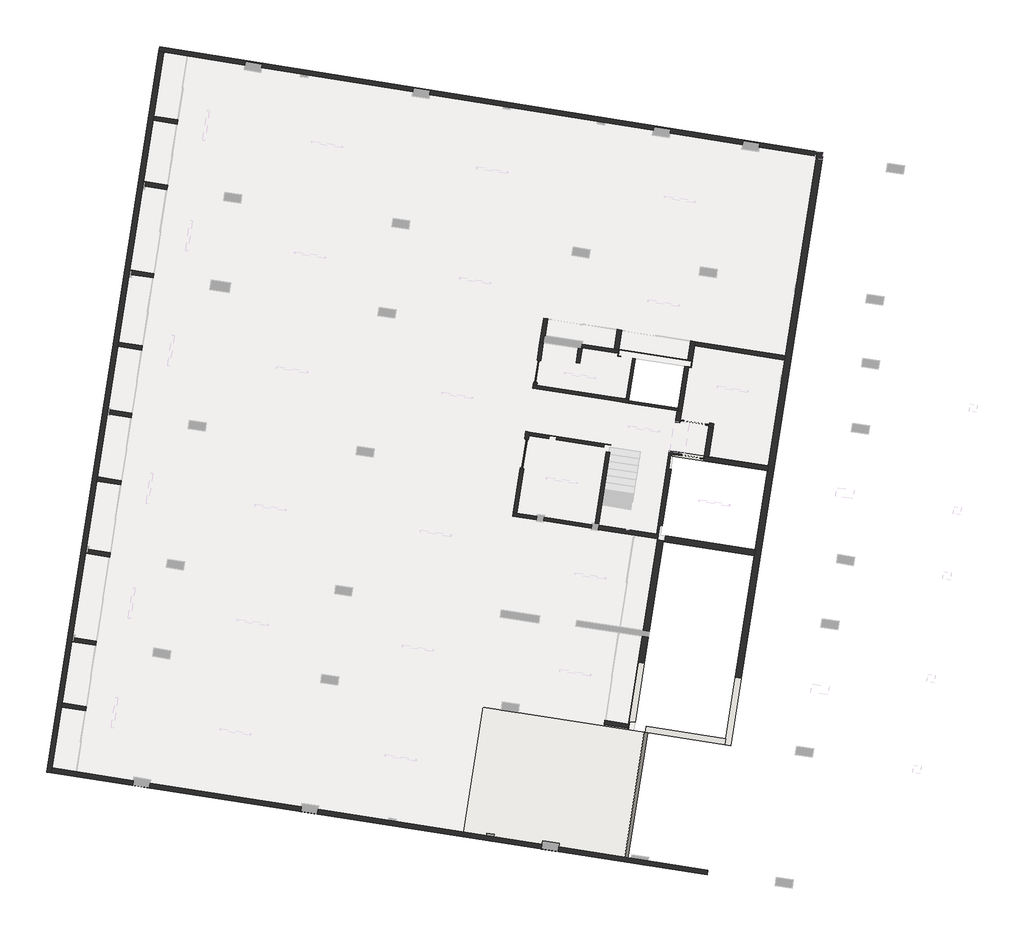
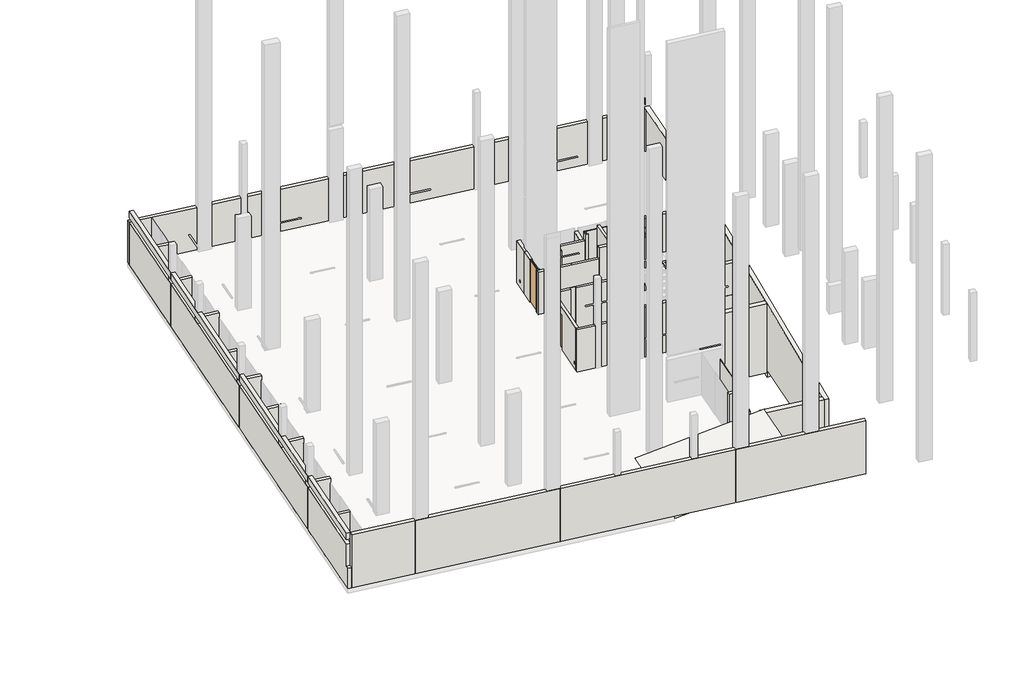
# One storey, part 1 of 5: 43 walls, 4 doors, 1 slab.
"""IFC4 building model written with IfcOpenShell, lengths in millimetres."""

from ifc_helpers import new_model, si_unit, frame, origin, place, context, project, spatial, polyline, outline, extrude, faceted_brep, transform, mapped, element, save
from components import ph1_bbbda500, ph2_7709b1c7, ph3_8ca4f0ef

model = new_model("IFC4")

# Units and contexts
model_context = context("Model", 3, world=origin())
ifc_project = project(units=[si_unit("LENGTHUNIT", "METRE", prefix="MILLI")], contexts=[model_context])

# Site, building, storey
site = spatial("IfcSite", under=ifc_project)
building = spatial("IfcBuilding", under=site)
storey = spatial("IfcBuildingStorey", under=building, Name="SÓTANO 2", Elevation=-5800.0)

# Doors
placement = place(None, origin())
ph1_shape = ph1_bbbda500(model_context)
element("IfcDoor", 1, ObjectType="Puerta Metalica-lisa : PH1", at=placement, inside=storey, context=model_context, shape_type="MappedRepresentation", body=[
    mapped(ph1_shape, transform((-35938.929982, -62909.9146704, -5800.0), x_axis=(0.15400987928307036, 0.9880693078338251, 0.0), y_axis=(-0.9880693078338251, 0.15400987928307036, 0.0), z_axis=(0.0, 0.0, 1.0))),
])
ph2_shape = ph2_7709b1c7(model_context)
element("IfcDoor", 2, ObjectType="Puerta Metalica-lisa : PH2", at=placement, inside=storey, context=model_context, shape_type="MappedRepresentation", body=[
    mapped(ph2_shape, transform((-36461.752021, -66264.1437351, -5800.0), x_axis=(0.15400987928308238, 0.9880693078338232, 0.0), y_axis=(-0.9880693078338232, 0.15400987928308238, 0.0), z_axis=(0.0, 0.0, 1.0))),
])
element("IfcDoor", 3, ObjectType="Puerta Metalica-lisa : PH2", at=placement, inside=storey, context=model_context, shape_type="MappedRepresentation", body=[
    mapped(ph2_shape, transform((-29509.0864413, -64999.8388898, -5800.0), x_axis=(-0.9880693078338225, 0.15400987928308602, 0.0), y_axis=(-0.15400987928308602, -0.9880693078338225, 0.0), z_axis=(0.0, 0.0, 1.0))),
])
ph3_shape = ph3_8ca4f0ef(model_context)
element("IfcDoor", 4, ObjectType="Puerta Metalica-lisa : PH3", at=placement, inside=storey, context=model_context, shape_type="MappedRepresentation", body=[
    mapped(ph3_shape, transform((-29652.4552231, -66374.1552262, -5800.0), x_axis=(-0.988069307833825, 0.15400987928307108, 0.0), y_axis=(-0.15400987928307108, -0.988069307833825, 0.0), z_axis=(0.0, 0.0, 1.0))),
])

# Slab
element("IfcSlab", 5, ObjectType="Suelo-losa 25cms estrias rampa", at=placement, inside=storey, context=model_context, shape_type="Brep", body=[
    faceted_brep([(-38150.5836204, -76612.0686454, -6064.1784246), (-31431.7122955, -77659.3358295, -4840.1784188), (-32232.5636685, -82797.2962349, -4840.1784188), (-38951.4349922, -81750.0290433, -6064.1784246), (-38150.5836204, -76612.0686454, -5800.0), (-38951.4349922, -81750.0290433, -5800.0), (-32232.5636685, -82797.2962349, -4575.9999943), (-31431.7122955, -77659.3358295, -4575.9999943)], [[[0, 1, 2, 3]], [[4, 5, 6, 7]], [[1, 0, 4, 7]], [[2, 1, 7, 6]], [[3, 2, 6, 5]], [[0, 3, 5, 4]]]),
])

# Walls
element("IfcWall", 6, ObjectType="Muro Contención - 25", at=placement, inside=storey, context=model_context, shape_type="Brep", body=[
    faceted_brep([(-31941.0705218, -77226.1247005, -4807.0363821), (-31941.0705218, -77226.1247005, -7900.0), (-30786.7043254, -69820.1464995, -7900.0), (-30786.7043254, -69820.1464995, -4171.3396338), (-30792.1929647, -69855.3595396, -4174.362167), (-31361.9312359, -73510.5854374, -4488.1107569), (-31361.9312359, -73510.5854374, -5800.0), (-31400.4337057, -73757.6027643, -5800.0), (-31400.4337057, -73757.6027643, -4509.3136429), (-31000.7078218, -69569.8397428, -7900.0), (-32238.9472528, -77513.9169874, -7900.0), (-32238.9472528, -77513.9169874, -3880.0), (-32232.6885595, -77473.7635714, -3880.0), (-32204.9667812, -77295.911096, -3880.0), (-31647.451033, -73719.1002962, -3880.0), (-31647.451033, -73719.1002962, -5800.0), (-31608.9485631, -73472.0829693, -5800.0), (-31608.9485631, -73472.0829693, -3880.0), (-31026.119453, -69732.8711858, -3880.0), (-30998.3976748, -69555.0187104, -3880.0), (-30998.3976748, -69555.0187104, -4159.0419593), (-31000.7078218, -69569.8397428, -4159.0419593), (-31000.7078218, -69569.8397428, -5800.0), (-30990.8271037, -69571.3798455, -7900.0), (-31023.8409342, -69783.1841324, -7900.0), (-32168.3264678, -77190.7024275, -7900.0), (-32219.1858718, -77516.9971842, -7900.0), (-32168.3264678, -77190.7024275, -4807.0363821), (-32234.0069062, -77514.6870368, -4835.0440956), (-32219.1858718, -77516.9971842, -4835.0440956), (-31642.5106864, -73719.8703456, -4509.3136431), (-30993.4573282, -69555.7887598, -4151.8871085), (-31007.2199227, -69644.0843759, -4159.4660176), (-31604.0082166, -73472.8530186, -4488.1107571), (-31023.8409342, -69783.1841324, -4171.3396338), (-30988.5169566, -69556.5588131, -4151.8871085), (-30993.4573282, -69555.7887598, -3880.0), (-31604.0082166, -73472.8530186, -3880.0), (-32234.0069062, -77514.6870368, -3880.0), (-31642.5106864, -73719.8703456, -3880.0), (-31604.0082166, -73472.8530186, -4227.1773428), (-31642.5106864, -73719.8703456, -4248.3802288), (-30990.8271037, -69571.3798455, -4159.0419593), (-30990.8271037, -69571.3798455, -5800.0), (-30988.5169566, -69556.5588131, -4153.159281), (-30988.5169566, -69556.5588131, -4159.0419593)], [[[0, 1, 2, 3, 4, 5, 6, 7, 8]], [[9, 10, 11, 12, 13, 14, 15, 16, 17, 18, 19, 20, 21, 22]], [[10, 9, 23, 24, 2, 1, 25, 26]], [[1, 0, 27, 25]], [[28, 29, 27, 0, 8, 30]], [[31, 32, 33, 5, 4, 3, 34, 35]], [[36, 19, 18, 17, 37]], [[11, 38, 39, 14, 13, 12]], [[31, 36, 37, 40, 33, 32]], [[38, 28, 30, 41, 39]], [[9, 22, 21, 42, 43, 23]], [[19, 36, 31, 35, 44, 45, 20]], [[7, 6, 16, 15]], [[8, 7, 15, 14, 39, 41, 30]], [[6, 5, 33, 40, 37, 17, 16]], [[34, 24, 23, 43, 42, 45, 44, 35]], [[24, 34, 3, 2]], [[21, 20, 45, 42]], [[25, 27, 29, 26]], [[11, 10, 26, 29, 28, 38]]]),
])
element("IfcWall", 7, ObjectType="Muro block 16cms_ext ductos", at=placement, inside=storey, context=model_context, shape_type="Brep", body=[
    faceted_brep([(-29918.9030443, -62694.3193065, -5800.0), (-30186.1820742, -64409.0807708, -5800.0), (-30202.3069086, -64512.5316273, -5800.0), (-30202.3069086, -64512.5316273, -3000.0), (-30194.2444914, -64460.806199, -3000.0), (-29918.9030443, -62694.3193065, -3000.0), (-30044.2158194, -64537.173208, -5800.0), (-29763.8921521, -62738.7222697, -5800.0), (-29760.811955, -62718.9608872, -5800.0), (-29760.811955, -62718.9608872, -3000.0), (-29763.8921521, -62738.7222697, -3000.0), (-30044.2158194, -64537.173208, -3000.0)], [[[0, 1, 2, 3, 4, 5]], [[6, 7, 8, 9, 10, 11]], [[2, 1, 0, 8, 7, 6]], [[5, 4, 3, 11, 10, 9]], [[0, 5, 9, 8]], [[11, 3, 2, 6]]]),
])
element("IfcWall", 8, ObjectType="Muro block 16cms_ext ductos", at=placement, inside=storey, context=model_context, shape_type="Brep", body=[
    faceted_brep([(-32939.2589043, -64085.9242594, -5800.0), (-32217.9683283, -64198.3514683, -5800.0), (-32217.9683283, -64198.3514683, -3000.0), (-32326.6559522, -64181.4103816, -3000.0), (-32326.6559522, -64181.4103816, -2600.0), (-32939.2589043, -64085.9242594, -2600.0), (-32939.2589043, -64085.9242594, -3260.0), (-32914.6173236, -63927.8331701, -5800.0), (-32914.6173236, -63927.8331701, -2600.0), (-32302.0143715, -64023.3192924, -2600.0), (-32302.0143715, -64023.3192924, -3000.0), (-32247.6705596, -64031.7898357, -3000.0), (-32193.3267476, -64040.2603791, -3000.0), (-32193.3267476, -64040.2603791, -5800.0), (-32302.0143715, -64023.3192924, -5800.0), (-32916.1574224, -63937.7138632, -5800.0), (-32201.843494, -64094.9006121, -5800.0), (-32201.843494, -64094.9006121, -3000.0)], [[[0, 1, 2, 3, 4, 5, 6]], [[7, 8, 9, 10, 11, 12, 13, 14]], [[1, 0, 15, 7, 14, 13, 16]], [[5, 4, 9, 8]], [[0, 6, 5, 8, 7, 15]], [[10, 3, 2, 17, 12, 11]], [[2, 1, 16, 13, 12, 17]], [[4, 3, 10, 9]]]),
])
element("IfcWall", 9, ObjectType="Muro block 11cms_int_ductos doble", at=placement, inside=storey, context=model_context, shape_type="Brep", body=[
    faceted_brep([(-32193.3267476, -64040.2603791, -5800.0), (-31934.5644636, -62380.1391446, -5800.0), (-31934.5644636, -62380.1391446, -2600.0), (-32201.843494, -64094.9006121, -2600.0), (-32201.843494, -64094.9006121, -3000.0), (-32193.3267476, -64040.2603791, -3000.0), (-32302.0143715, -64023.3192924, -5800.0), (-32302.0143715, -64023.3192924, -3000.0), (-32302.0143715, -64023.3192924, -2600.0), (-32043.2520874, -62363.1980579, -2600.0), (-32043.2520874, -62363.1980579, -5800.0), (-32247.6705596, -64031.7898357, -2600.0), (-32256.1873059, -64086.4300687, -2600.0), (-32256.1873059, -64086.4300687, -3000.0), (-32247.6705596, -64031.7898357, -3000.0)], [[[0, 1, 2, 3, 4, 5]], [[6, 7, 8, 9, 10]], [[1, 0, 6, 10]], [[2, 1, 10, 9]], [[3, 2, 9, 8, 11, 12]], [[4, 13, 14, 5]], [[0, 5, 14, 7, 6]], [[4, 3, 12, 13]], [[12, 11, 14, 13]], [[11, 8, 7, 14]]]),
])
element("IfcWall", 10, ObjectType="TABLAROCA - 1 CAPA 1/2\"", at=placement, inside=storey, context=model_context, shape_type="Brep", body=[
    faceted_brep([(-32217.9683284, -64198.3514686, -2600.0), (-32217.9683284, -64198.3514686, -3000.0), (-32217.9683284, -64198.3514686, -5800.0), (-30222.0682948, -64509.4514297, -5800.0), (-30202.3069086, -64512.5316273, -5800.0), (-30202.3069086, -64512.5316273, -3000.0), (-30222.0682948, -64509.4514297, -3000.0), (-30222.0682948, -64509.4514297, -2600.0), (-32201.843494, -64094.9006121, -5800.0), (-32201.843494, -64094.9006121, -2600.0), (-30186.1820742, -64409.0807708, -2600.0), (-30186.1820742, -64409.0807708, -3000.0), (-30186.1820742, -64409.0807708, -5800.0), (-30214.0058776, -64457.7260015, -2600.0), (-30194.2444914, -64460.806199, -2600.0), (-30194.2444914, -64460.806199, -3000.0), (-30214.0058776, -64457.7260015, -3000.0)], [[[0, 1, 2, 3, 4, 5, 6, 7]], [[8, 9, 10, 11, 12]], [[4, 3, 2, 8, 12]], [[0, 7, 13, 14, 10, 9]], [[15, 16, 6, 5]], [[5, 4, 12, 11, 15]], [[7, 6, 16, 13]], [[16, 15, 14, 13]], [[15, 11, 10, 14]], [[0, 9, 8, 2, 1]]]),
])
element("IfcWall", 11, ObjectType="Muro Contención - 20 cm", at=placement, inside=storey, context=model_context, shape_type="Brep", body=[
    faceted_brep([(-51178.3391861, -49875.6371951, -2600.0), (-55731.1303391, -79084.6283593, -2600.0), (-55731.1303391, -79084.6283593, -3000.0), (-55344.4672489, -76603.9437849, -3000.0), (-55316.7454706, -76426.0913095, -3000.0), (-54928.6405692, -73936.1566173, -3000.0), (-54900.9187909, -73758.3041419, -3000.0), (-54366.5045095, -70329.703642, -3000.0), (-54338.7827312, -70151.8511666, -3000.0), (-53907.1907955, -67382.9200616, -3000.0), (-53879.4690172, -67205.0675862, -3000.0), (-53478.679059, -64633.7503533, -3000.0), (-53450.9572807, -64455.8978779, -3000.0), (-53050.1673161, -61884.5806043, -3000.0), (-53022.4455378, -61706.7281289, -3000.0), (-52590.8536046, -58937.79704, -3000.0), (-52563.1318263, -58759.9445646, -3000.0), (-51178.3391861, -49875.6371951, -3000.0), (-55928.7442006, -79053.8263835, -2600.0), (-51375.8388988, -49844.1028827, -2600.0), (-51375.8388988, -49844.1028827, -3000.0), (-55928.7442006, -79053.8263835, -3000.0)], [[[0, 1, 2, 3, 4, 5, 6, 7, 8, 9, 10, 11, 12, 13, 14, 15, 16, 17]], [[18, 19, 20, 21]], [[1, 0, 19, 18]], [[19, 0, 17, 20]], [[17, 16, 15, 14, 13, 12, 11, 10, 9, 8, 7, 6, 5, 4, 3, 2, 21, 20]], [[1, 18, 21, 2]]]),
    faceted_brep([(-55761.9323149, -79282.2422209, -5800.0), (-55731.1303391, -79084.6283593, -5800.0), (-55344.467249, -76603.9437854, -5800.0), (-55316.7454707, -76426.09131, -5800.0), (-54928.6405692, -73936.1566173, -5800.0), (-54926.4287711, -73921.9665548, -5800.0), (-54366.5045095, -70329.703642, -5800.0), (-54364.2927112, -70315.5135781, -5800.0), (-53907.1907955, -67382.9200616, -5800.0), (-53879.4690172, -67205.0675862, -5800.0), (-53050.1673161, -61884.5806043, -5800.0), (-53022.4455378, -61706.7281289, -5800.0), (-52565.5403627, -58775.3968255, -5800.0), (-52563.1318263, -58759.9445646, -5800.0), (-52003.4043028, -55168.9438488, -5800.0), (-52000.9957705, -55153.4916138, -5800.0), (-51612.8908725, -52663.5569442, -5800.0), (-51585.1690943, -52485.7044688, -5800.0), (-51178.3391861, -49875.6371951, -5800.0), (-51178.3391861, -49875.6371951, -3260.0), (-52000.9957705, -55153.4916138, -3260.0), (-52003.4043028, -55168.9438488, -3260.0), (-53022.4455378, -61706.7281289, -3260.0), (-53050.1673161, -61884.5806043, -3260.0), (-55316.7454707, -76426.09131, -3260.0), (-55344.467249, -76603.9437854, -3260.0), (-55731.1303391, -79084.6283593, -3260.0), (-55731.1303391, -79084.6283593, -4580.0), (-55761.9323149, -79282.2422209, -4580.0), (-51375.8388988, -49844.1028827, -5800.0), (-55959.5461765, -79251.4402451, -5800.0), (-55959.5461765, -79251.4402451, -4580.0), (-55928.7442006, -79053.8263835, -4580.0), (-55928.7442006, -79053.8263835, -3260.0), (-51375.8388988, -49844.1028827, -3260.0)], [[[0, 1, 2, 3, 4, 5, 6, 7, 8, 9, 10, 11, 12, 13, 14, 15, 16, 17, 18, 19, 20, 21, 22, 23, 24, 25, 26, 27, 28]], [[29, 30, 31, 32, 33, 34]], [[18, 17, 16, 15, 14, 13, 12, 11, 10, 9, 8, 7, 6, 5, 4, 3, 2, 1, 0, 30, 29]], [[18, 29, 34, 19]], [[32, 31, 28, 27]], [[0, 28, 31, 30]], [[26, 25, 24, 23, 22, 21, 20, 19, 34, 33]], [[32, 27, 26, 33]]]),
])
element("IfcWall", 12, ObjectType="Muro Contención - 20 cm", at=placement, inside=storey, context=model_context, shape_type="Brep", body=[
    faceted_brep([(-30509.9942441, -53175.7029943, -3260.0), (-30509.9942441, -53175.7029943, -5800.0), (-27562.3110326, -53646.3526075, -5800.0), (-27562.3110326, -53646.3526075, -3260.0), (-31201.2432383, -53065.3329007, -5800.0), (-31201.2432383, -53065.3329007, -3260.0), (-40325.7209681, -51608.4491021, -3260.0), (-40325.7209681, -51608.4491021, -5800.0), (-51375.8388988, -49844.1028827, -3260.0), (-51375.8388988, -49844.1028827, -5800.0), (-51178.3391861, -49875.6371951, -5800.0), (-47870.2123516, -50403.8379899, -5800.0), (-47870.2123516, -50403.8379899, -3260.0), (-51178.3391861, -49875.6371951, -3260.0), (-24535.6279576, -54129.6159423, -3260.0), (-26871.0620384, -53756.722701, -3260.0), (-26871.0620384, -53756.722701, -5800.0), (-24535.6279576, -54129.6159423, -5800.0), (-47178.9631418, -50514.2081179, -3260.0), (-47178.9631418, -50514.2081179, -5800.0), (-41016.9701779, -51498.0789741, -5800.0), (-41016.9701779, -51498.0789741, -3260.0), (-24504.8257702, -53932.0007237, -5800.0), (-51345.0367114, -49646.4876641, -5800.0), (-51345.0367114, -49646.4876641, -3260.0), (-24504.8257702, -53932.0007237, -3260.0), (-26846.4762948, -53598.9898415, -5800.0), (-27538.1248103, -53491.1829259, -5800.0), (-30487.5117328, -53031.4636799, -5800.0), (-31179.1602483, -52923.6567643, -5800.0), (-40297.7399681, -51428.8353259, -5800.0), (-40989.3974534, -51321.0859732, -5800.0), (-47155.0299023, -50360.5774566, -5800.0), (-47846.6873876, -50252.828104, -5800.0), (-30487.5117328, -53031.4636799, -3260.0), (-27538.1248103, -53491.1829259, -3260.0), (-26846.4762948, -53598.9898415, -3260.0), (-47846.6873876, -50252.828104, -3260.0), (-47155.0299023, -50360.5774566, -3260.0), (-40989.3974534, -51321.0859732, -3260.0), (-40297.7399681, -51428.8353259, -3260.0), (-31179.1602483, -52923.6567643, -3260.0)], [[[0, 1, 2, 3]], [[4, 5, 6, 7]], [[8, 9, 10, 11, 12, 13]], [[14, 15, 16, 17]], [[18, 19, 20, 21]], [[22, 23, 24, 25]], [[23, 22, 17, 16, 26, 27, 2, 1, 28, 29, 4, 7, 30, 31, 20, 19, 32, 33, 11, 10, 9]], [[23, 9, 8, 24]], [[34, 0, 3, 35, 36, 15, 14, 25, 24, 8, 13, 12, 37, 38, 18, 21, 39, 40, 6, 5, 41]], [[34, 28, 1, 0]], [[28, 34, 41, 29]], [[29, 41, 5, 4]], [[36, 26, 16, 15]], [[26, 36, 35, 27]], [[27, 35, 3, 2]], [[38, 32, 19, 18]], [[32, 38, 37, 33]], [[33, 37, 12, 11]], [[40, 30, 7, 6]], [[30, 40, 39, 31]], [[31, 39, 21, 20]], [[17, 22, 25, 14]]]),
    faceted_brep([(-24412.5565914, -54149.2664565, -2600.0), (-24585.36884, -54121.6739331, -2600.0), (-24585.36884, -54121.6739331, -3000.0), (-24412.5565914, -54149.2664565, -3000.0), (-24553.8347441, -53924.1755767, -2600.0), (-24381.0224955, -53951.7681, -2600.0), (-24381.0224955, -53951.7681, -3000.0), (-24504.8257702, -53932.0007237, -3000.0), (-24553.8347441, -53924.1755767, -3000.0)], [[[0, 1, 2, 3]], [[4, 5, 6, 7, 8]], [[0, 5, 4, 1]], [[2, 1, 4, 8]], [[5, 0, 3, 6]], [[6, 3, 2, 8, 7]]]),
])
element("IfcWall", 13, ObjectType="Muro Contención - 20 cm", at=placement, inside=storey, context=model_context, shape_type="Brep", body=[
    faceted_brep([(-28974.2134871, -83255.2158897, -2600.0), (-28974.2134871, -83255.2158897, -5800.0), (-35050.8397091, -82308.0551354, -5800.0), (-35050.8397091, -82308.0551354, -2600.0), (-55731.1303391, -79084.6283593, -5800.0), (-55731.1303391, -79084.6283593, -2600.0), (-52421.0981531, -79600.5614557, -2600.0), (-52421.0981531, -79600.5614557, -5800.0), (-51729.4496376, -79708.3683712, -5800.0), (-51729.4496376, -79708.3683712, -2600.0), (-45563.8971576, -80669.3900178, -2600.0), (-45563.8971576, -80669.3900178, -5800.0), (-35742.4882246, -82200.2482199, -2600.0), (-35742.4882246, -82200.2482199, -5800.0), (-44872.2486421, -80777.1969333, -5800.0), (-44872.2486421, -80777.1969333, -2600.0), (-55761.9323149, -79282.2422209, -5800.0), (-29005.015463, -83452.8297512, -5800.0), (-29005.015463, -83452.8297512, -2600.0), (-55761.9323149, -79282.2422209, -2600.0), (-55761.9323149, -79282.2422209, -3000.0), (-55761.9323149, -79282.2422209, -4580.0), (-52451.8022857, -79797.5475923, -5800.0), (-51760.1537702, -79905.3545078, -5800.0), (-45594.6630239, -80866.7722138, -5800.0), (-44903.0145084, -80974.5791293, -5800.0), (-35773.1919463, -82397.2317198, -5800.0), (-35081.5434308, -82505.0386353, -5800.0), (-35081.5434308, -82505.0386353, -2600.0), (-35773.1919463, -82397.2317198, -2600.0), (-44903.0145084, -80974.5791293, -2600.0), (-45594.6630239, -80866.7722138, -2600.0), (-51760.1537702, -79905.3545078, -2600.0), (-52451.8022857, -79797.5475923, -2600.0)], [[[0, 1, 2, 3]], [[4, 5, 6, 7]], [[8, 9, 10, 11]], [[12, 13, 14, 15]], [[16, 17, 18, 19, 20, 21]], [[17, 16, 4, 7, 22, 23, 8, 11, 24, 25, 14, 13, 26, 27, 2, 1]], [[19, 18, 0, 3, 28, 29, 12, 15, 30, 31, 10, 9, 32, 33, 6, 5]], [[1, 0, 18, 17]], [[4, 16, 21, 20, 19, 5]], [[9, 8, 23, 32]], [[32, 23, 22, 33]], [[7, 6, 33, 22]], [[3, 2, 27, 28]], [[28, 27, 26, 29]], [[13, 12, 29, 26]], [[25, 30, 15, 14]], [[30, 25, 24, 31]], [[31, 24, 11, 10]]]),
])
element("IfcWall", 14, ObjectType="Muro Contención - 25", at=placement, inside=storey, context=model_context, shape_type="Brep", body=[
    faceted_brep([(-26504.8745713, -66763.5596062, -8560.0), (-27077.0523841, -70434.4366831, -8560.0), (-27077.0523841, -70434.4366831, -8300.0), (-27077.0523841, -70434.4366831, -8160.0), (-28276.7893452, -78131.4966007, -8160.0), (-28276.7893452, -78131.4966007, -7900.0), (-28276.7893452, -78131.4966007, -4835.0440956), (-28238.2868754, -77884.4792738, -4813.8412096), (-27077.0523841, -70434.4366831, -4174.362167), (-27038.5499143, -70187.4193561, -4153.159281), (-26534.1364483, -66951.2927747, -3875.3843418), (-26506.4146701, -66773.4402993, -3860.1182638), (-25831.0971591, -62440.8578137, -3488.2283496), (-25803.3753809, -62263.0053383, -3472.9622717), (-25418.3506872, -59792.8320981, -3260.9334142), (-25418.3506872, -59792.8320981, -3260.0), (-24535.6279576, -54129.6159423, -3260.0), (-24504.8257702, -53932.0007237, -3260.0), (-24504.8257702, -53932.0007237, -5800.0), (-24504.8257702, -53932.0007237, -6060.0), (-26504.8745713, -66763.5596062, -6060.0), (-26504.8745713, -66763.5596062, -8300.0), (-26830.0350571, -70472.9391529, -8560.0), (-26257.8572443, -66802.062076, -8560.0), (-26257.8572443, -66802.062076, -6060.0), (-24257.9511294, -53971.4186143, -6060.0), (-24257.9511294, -53971.4186143, -3260.0), (-25171.3333603, -59831.334568, -3260.0), (-25171.3333603, -59831.334568, -3260.9334142), (-28029.7720182, -78169.9990706, -4835.0440956), (-28029.7720182, -78169.9990706, -8160.0), (-26830.0350571, -70472.9391529, -8160.0)], [[[0, 1, 2, 3, 4, 5, 6, 7, 8, 9, 10, 11, 12, 13, 14, 15, 16, 17, 18, 19, 20, 21]], [[22, 23, 24, 25, 26, 27, 28, 29, 30, 31]], [[25, 19, 18, 17, 26]], [[17, 16, 15, 27, 26]], [[14, 13, 12, 11, 10, 9, 8, 7, 6, 29, 28]], [[1, 0, 23, 22]], [[14, 28, 27, 15]], [[20, 19, 25, 24]], [[4, 3, 31, 30]], [[3, 2, 1, 22, 31]], [[0, 21, 20, 24, 23]], [[29, 6, 5, 4, 30]]]),
])
element("IfcWall", 15, ObjectType="Muro Contención - 25", at=placement, inside=storey, context=model_context, shape_type="SweptSolid", body=[
    extrude(outline(polyline([(11155.2020181, 1246.1587904), (11405.2020181, 1224.9559044), (11405.2020181, -1840.0), (11155.2020181, -1840.0), (11155.2020181, 1246.1587904)])), frame((-26520.2755592, -66862.366537, -6060.0), z_axis=(-0.9880693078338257, 0.1540098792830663, 0.0), x_axis=(-0.1540098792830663, -0.9880693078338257, 0.0)), (0.0, 0.0, 1.0), 3289.9999882),
])
element("IfcWall", 16, ObjectType="Muro Contención - 25", at=placement, inside=storey, context=model_context, shape_type="Brep", body=[
    faceted_brep([(-30792.1929647, -69855.3595396, -8300.0), (-27077.0523841, -70434.4366831, -8300.0), (-27077.0523841, -70434.4366831, -8160.0), (-27077.0523841, -70434.4366831, -4174.362167), (-30792.1929647, -69855.3595396, -4174.362167), (-27038.5499143, -70187.4193561, -4153.159281), (-27038.5499143, -70187.4193561, -8300.0), (-30694.4063114, -69617.5828093, -8300.0), (-30694.4063114, -69617.5828093, -4153.159281), (-30786.7043254, -69820.1464995, -8300.0), (-30727.4201419, -69829.3870962, -8300.0), (-30727.4201419, -69829.3870962, -4171.3396338), (-30786.7043254, -69820.1464995, -4171.3396338), (-30786.7043254, -69820.1464995, -7900.0)], [[[0, 1, 2, 3, 4]], [[5, 6, 7, 8]], [[1, 0, 9, 10, 7, 6]], [[4, 3, 5, 8, 11, 12]], [[0, 4, 12, 13, 9]], [[10, 11, 8, 7]], [[11, 10, 9, 13, 12]], [[1, 6, 5, 3, 2]]]),
])
element("IfcWall", 17, ObjectType="Muro block 13cms_ext_ductos", at=placement, inside=storey, context=model_context, shape_type="Brep", body=[
    faceted_brep([(-29738.9906924, -62449.1019696, -5800.0), (-29788.3941578, -62441.4014756, -5800.0), (-32485.8233633, -62020.954506, -5800.0), (-32485.8233633, -62020.954506, -3000.0), (-29738.9906924, -62449.1019696, -3000.0), (-29742.07089, -62468.8633556, -5800.0), (-32488.9035608, -62040.715892, -5800.0), (-32488.9035608, -62040.715892, -3000.0), (-29742.07089, -62468.8633556, -3000.0)], [[[0, 1, 2, 3, 4]], [[2, 1, 0, 5, 6]], [[4, 3, 7, 8]], [[3, 2, 6, 7]], [[0, 4, 8, 5]], [[6, 5, 8, 7]]]),
])
element("IfcWall", 18, ObjectType="Muro block 13cms_ext_ductos", at=placement, inside=storey, context=model_context, shape_type="Brep", body=[
    faceted_brep([(-32614.2723734, -62000.9332216, -5800.0), (-32617.3525738, -62020.6946263, -5800.0), (-32640.4540551, -62168.9050226, -5800.0), (-32658.9352374, -62287.4733218, -5800.0), (-32658.9352374, -62287.4733218, -3000.0), (-32614.2723734, -62000.9332216, -3000.0), (-32530.4862273, -62307.4946056, -3000.0), (-32530.4862273, -62307.4946056, -5800.0), (-32527.4060297, -62287.7332191, -5800.0), (-32527.4060297, -62287.7332191, -3000.0), (-32485.8233633, -62020.954506, -5800.0), (-32485.8233633, -62020.954506, -3000.0), (-32488.9035608, -62040.715892, -3000.0), (-32488.9035608, -62040.715892, -5800.0), (-32597.5911868, -62023.7748049, -5800.0), (-32636.0936566, -62270.7921319, -5800.0), (-32636.0936566, -62270.7921319, -3000.0), (-32597.5911868, -62023.7748049, -3000.0)], [[[0, 1, 2, 3, 4, 5]], [[6, 7, 8, 9]], [[10, 11, 12, 13]], [[3, 2, 1, 0, 10, 13, 14, 15, 8, 7]], [[4, 3, 7, 6]], [[5, 4, 6, 9, 16, 17, 12, 11]], [[0, 5, 11, 10]], [[17, 14, 13, 12]], [[14, 17, 16, 15]], [[15, 16, 9, 8]]]),
])
element("IfcWall", 19, ObjectType="Muro block 13cms_ext_ductos", at=placement, inside=storey, context=model_context, shape_type="Brep", body=[
    faceted_brep([(-29738.9906924, -62449.1019696, -3000.0), (-29738.9906924, -62449.1019696, -5800.0), (-29742.07089, -62468.8633556, -5800.0), (-29742.07089, -62468.8633556, -3000.0), (-29655.2045485, -62755.6633537, -5800.0), (-29610.5416824, -62469.1232539, -5800.0), (-29610.5416824, -62469.1232539, -3539.9633922), (-29610.5416824, -62469.1232539, -3000.0), (-29655.2045485, -62755.6633537, -3000.0), (-29763.8921521, -62738.7222697, -5800.0), (-29760.8119544, -62718.9608832, -5800.0), (-29671.8857331, -62732.8217697, -5800.0), (-29633.3832633, -62485.8044428, -5800.0), (-29763.8921521, -62738.7222697, -3000.0), (-29719.2293095, -62452.1821667, -3000.0), (-29633.3832633, -62485.8044428, -3000.0), (-29671.8857331, -62732.8217697, -3000.0), (-29760.8119544, -62718.9608832, -3000.0)], [[[0, 1, 2, 3]], [[4, 5, 6, 7, 8]], [[5, 4, 9, 10, 11, 12, 2, 1]], [[4, 8, 13, 9]], [[8, 7, 14, 0, 3, 15, 16, 17, 13]], [[1, 0, 14, 7, 6, 5]], [[3, 2, 12, 15]], [[12, 11, 16, 15]], [[16, 11, 10, 17]], [[10, 9, 13, 17]]]),
])
element("IfcWall", 20, ObjectType="Muro block 15cms_ext/ext (tabique pasta dos lados)", at=placement, inside=storey, context=model_context, shape_type="Brep", body=[
    faceted_brep([(-36934.7739188, -68811.8921066, -3260.0), (-36934.7739188, -68811.8921066, -5800.0), (-35971.4065402, -68962.0517084, -5800.0), (-35971.4065402, -68962.0517084, -3260.0), (-36911.6724369, -68663.6817104, -5800.0), (-36911.6724369, -68663.6817104, -3260.0), (-36763.4620407, -68686.7831923, -3260.0), (-35948.3050574, -68813.8413123, -3260.0), (-35948.3050574, -68813.8413123, -5800.0), (-36763.4620407, -68686.7831923, -5800.0)], [[[0, 1, 2, 3]], [[4, 5, 6, 7, 8, 9]], [[1, 4, 9, 8, 2]], [[5, 0, 3, 7, 6]], [[4, 1, 0, 5]], [[8, 7, 3, 2]]]),
    faceted_brep([(-35674.9857479, -69008.2546722, -3260.0), (-35674.9857479, -69008.2546722, -5800.0), (-33733.4293193, -69310.8841223, -5800.0), (-33733.4293193, -69310.8841223, -3260.0), (-35651.8842651, -68860.0442761, -5800.0), (-35651.8842651, -68860.0442761, -3260.0), (-33710.3278374, -69162.6737262, -3260.0), (-33710.3278374, -69162.6737262, -5800.0)], [[[0, 1, 2, 3]], [[4, 5, 6, 7]], [[1, 4, 7, 2]], [[5, 0, 3, 6]], [[5, 4, 1, 0]], [[3, 2, 7, 6]]]),
])
element("IfcWall", 21, ObjectType="Muro block 15cms_ext/ext (tabique pasta dos lados)", at=placement, inside=storey, context=model_context, shape_type="Brep", body=[
    faceted_brep([(-36295.2408953, -65682.8528913, -5800.0), (-36270.8732736, -65526.5194194, -5800.0), (-36247.7717917, -65378.3090232, -5800.0), (-36247.7717917, -65378.3090232, -3260.0), (-36270.8732736, -65526.5194194, -3260.0), (-36763.4620407, -68686.7831923, -3260.0), (-36763.4620407, -68686.7831923, -5800.0), (-36480.0527505, -66868.5360607, -5800.0), (-36480.0527505, -66868.5360607, -3700.0), (-36295.2408953, -65682.8528913, -3700.0), (-36395.9821879, -65355.2075413, -5800.0), (-36443.4512915, -65659.7514094, -5800.0), (-36443.4512915, -65659.7514094, -3700.0), (-36628.2631467, -66845.4345788, -3700.0), (-36628.2631467, -66845.4345788, -5800.0), (-36911.6724369, -68663.6817104, -5800.0), (-36911.6724369, -68663.6817104, -3260.0), (-36395.9821879, -65355.2075413, -3260.0)], [[[0, 1, 2, 3, 4, 5, 6, 7, 8, 9]], [[10, 11, 12, 13, 14, 15, 16, 17]], [[6, 15, 14, 7]], [[10, 2, 1, 0, 11]], [[5, 4, 3, 17, 16]], [[15, 6, 5, 16]], [[2, 10, 17, 3]], [[0, 9, 12, 11]], [[9, 8, 13, 12]], [[8, 7, 14, 13]]]),
])
element("IfcWall", 22, ObjectType="Muro block 15cms_ext/ext (tabique pasta dos lados)", at=placement, inside=storey, context=model_context, shape_type="SweptSolid", body=[
    extrude(outline(polyline([(-36247.7717917, -65378.3090232), (-32927.8589039, -65895.7822197), (-32930.9391015, -65915.5436059), (-33197.717786, -65873.9609429), (-33217.7390703, -66002.409953), (-35159.2954974, -65699.7805032), (-35139.2742131, -65571.3314932), (-35435.6950055, -65525.1285294), (-35455.7162898, -65653.5775394), (-36270.8732736, -65526.5194194), (-36247.7717917, -65378.3090232)])), frame((0.0, 0.0, -5800.0), z_axis=(0.0, 0.0, 1.0), x_axis=(1.0, 0.0, 0.0)), (0.0, 0.0, 1.0), 2540.0),
])
element("IfcWall", 23, ObjectType="Muro block 15cms_int ductos", at=placement, inside=storey, context=model_context, shape_type="Brep", body=[
    faceted_brep([(-32640.4540551, -62168.9050226, -5800.0), (-32640.4540551, -62168.9050226, -3439.7722165), (-34043.51246, -61950.2109958, -3439.7722165), (-34043.51246, -61950.2109958, -3260.0), (-34102.7966418, -61940.9703994, -3260.0), (-34117.6176831, -61938.6602509, -3260.0), (-34117.6176831, -61938.6602509, -5800.0), (-34102.7966418, -61940.9703994, -5800.0), (-32617.3525725, -62020.6946265, -3453.6709354), (-32617.3525726, -62020.6946265, -3541.6496579), (-32617.3525738, -62020.6946263, -5800.0), (-32795.205068, -61992.9728451, -5800.0), (-34094.5162012, -61790.4498548, -5800.0), (-34094.5162012, -61790.4498548, -3260.0), (-34020.4109781, -61802.0005996, -3260.0), (-34020.4109781, -61802.0005996, -3453.6709354)], [[[0, 1, 2, 3, 4, 5, 6, 7]], [[8, 9, 10, 11, 12, 13, 14, 15]], [[10, 0, 7, 6, 12, 11]], [[3, 14, 13, 5, 4]], [[0, 10, 9, 8, 1]], [[2, 15, 14, 3]], [[2, 1, 8, 15]], [[6, 5, 13, 12]]]),
])
element("IfcWall", 24, ObjectType="Muro Contención - 20 cm", at=placement, inside=storey, context=model_context, shape_type="Brep", body=[
    faceted_brep([(-30418.788885, -66355.9146487, -8300.0), (-26535.6765471, -66961.1734677, -8300.0), (-26535.6765471, -66961.1734677, -5800.0), (-30418.788885, -66355.9146487, -5800.0), (-30387.9869092, -66158.3007871, -8300.0), (-30387.9869092, -66158.3007871, -5800.0), (-26504.8745713, -66763.5596062, -5800.0), (-26504.8745713, -66763.5596062, -6060.0), (-26504.8745713, -66763.5596062, -8300.0), (-26534.1364483, -66951.2927747, -5800.0), (-26506.4146701, -66773.4402993, -5800.0)], [[[0, 1, 2, 3]], [[4, 5, 6, 7, 8]], [[1, 0, 4, 8]], [[3, 2, 9, 10, 6, 5]], [[0, 3, 5, 4]], [[1, 8, 7, 6, 10, 9, 2]]]),
])
element("IfcWall", 25, ObjectType="Muro block 15cms_ext/ext (tabique pasta dos lados)", at=placement, inside=storey, context=model_context, shape_type="SweptSolid", body=[
    extrude(outline(polyline([(-33429.5899863, -69114.6996395), (-33577.8003824, -69091.5981576), (-33125.3524615, -66188.8629163), (-32977.1420653, -66211.9643982), (-33429.5899863, -69114.6996395)])), frame((0.0, 0.0, -5800.0), z_axis=(0.0, 0.0, 1.0), x_axis=(1.0, 0.0, 0.0)), (0.0, 0.0, 1.0), 2540.0),
])
element("IfcWall", 26, ObjectType="Muro block 15cms_ext/ext (tabique pasta dos lados)", at=placement, inside=storey, context=model_context, shape_type="Brep", body=[
    faceted_brep([(-36120.8420956, -63590.012445, -5800.0), (-32939.2589043, -64085.9242594, -5800.0), (-32939.2589043, -64085.9242594, -3260.0), (-34342.3173099, -63867.2302326, -3260.0), (-36120.8420956, -63590.012445, -3260.0), (-36097.7406137, -63441.8020488, -5800.0), (-36097.7406137, -63441.8020488, -3260.0), (-35949.5302175, -63464.9035307, -3260.0), (-34319.215828, -63719.0198364, -3260.0), (-32916.1574224, -63937.7138632, -3260.0), (-32916.1574224, -63937.7138632, -5800.0), (-35949.5302175, -63464.9035307, -5800.0)], [[[0, 1, 2, 3, 4]], [[5, 6, 7, 8, 9, 10, 11]], [[1, 0, 5, 11, 10]], [[2, 1, 10, 9]], [[0, 4, 6, 5]], [[3, 2, 9, 8]], [[4, 3, 8, 7, 6]]]),
])
element("IfcWall", 27, ObjectType="Muro block 15cms_ext/ext (tabique pasta dos lados)", at=placement, inside=storey, context=model_context, shape_type="Brep", body=[
    faceted_brep([(-36097.7406137, -63441.8020488, -5800.0), (-36097.7406137, -63441.8020488, -3260.0), (-36082.3396258, -63342.995118, -3260.0), (-36082.3396258, -63342.995118, -5800.0), (-35949.5302175, -63464.9035307, -3260.0), (-35949.5302175, -63464.9035307, -5800.0), (-35934.1292296, -63366.0965999, -5800.0), (-35934.1292296, -63366.0965999, -3260.0)], [[[0, 1, 2, 3]], [[4, 5, 6, 7]], [[5, 0, 3, 6]], [[1, 0, 5, 4]], [[1, 4, 7, 2]], [[3, 2, 7, 6]]]),
    faceted_brep([(-35943.7307344, -62453.7327409, -5800.0), (-35943.7307344, -62453.7327409, -3260.0), (-35828.197684, -61712.5162577, -3260.0), (-35828.197684, -61712.5162577, -5800.0), (-35679.9872879, -61735.6177395, -5800.0), (-35679.9872879, -61735.6177395, -3260.0), (-35795.5203382, -62476.8342228, -3260.0), (-35795.5203382, -62476.8342228, -5800.0), (-35704.689014, -61731.7674936, -5800.0), (-35704.689014, -61731.7674936, -3260.0)], [[[0, 1, 2, 3]], [[4, 5, 6, 7]], [[3, 8, 4, 7, 0]], [[5, 4, 8, 3, 2, 9]], [[5, 9, 2, 1, 6]], [[1, 0, 7, 6]]]),
])
element("IfcWall", 28, ObjectType="Muro block 15cms_ext/ext (tabique pasta dos lados)", at=placement, inside=storey, context=model_context, shape_type="SweptSolid", body=[
    extrude(outline(polyline([(-34102.7966418, -61940.9703994), (-34201.3630078, -62573.3350336), (-34349.573404, -62550.2335517), (-34257.1674764, -61957.3919671), (-34123.7781215, -61978.1833005), (-34117.6176831, -61938.6602509), (-34102.7966418, -61940.9703994)])), frame((0.0, 0.0, -5800.0), z_axis=(0.0, 0.0, 1.0), x_axis=(1.0, 0.0, 0.0)), (0.0, 0.0, 1.0), 2540.0),
])
element("IfcWall", 29, ObjectType="Muro block 18cms_ext/ext", at=placement, inside=storey, context=model_context, shape_type="SweptSolid", body=[
    extrude(outline(polyline([(-54366.2786296, -76756.4135666), (-55344.467249, -76603.9437854), (-55316.7454707, -76426.09131), (-54338.5568514, -76578.5610912), (-54366.2786296, -76756.4135666)])), frame((0.0, 0.0, -5800.0), z_axis=(0.0, 0.0, 1.0), x_axis=(1.0, 0.0, 0.0)), (0.0, 0.0, 1.0), 2540.0),
])
element("IfcWall", 30, ObjectType="Muro block 18cms_ext/ext", at=placement, inside=storey, context=model_context, shape_type="SweptSolid", body=[
    extrude(outline(polyline([(-53950.4519498, -74088.6263985), (-54928.6405692, -73936.1566173), (-54926.4287711, -73921.9665548), (-54827.6218403, -73937.3675428), (-54802.1118601, -73773.7051298), (-53922.7301716, -73910.7739231), (-53950.4519498, -74088.6263985)])), frame((0.0, 0.0, -5800.0), z_axis=(0.0, 0.0, 1.0), x_axis=(1.0, 0.0, 0.0)), (0.0, 0.0, 1.0), 2800.0),
])
element("IfcWall", 31, ObjectType="Muro block 18cms_ext/ext", at=placement, inside=storey, context=model_context, shape_type="SweptSolid", body=[
    extrude(outline(polyline([(-53388.3158902, -70482.1734232), (-54366.5045095, -70329.703642), (-54364.2927112, -70315.5135781), (-54265.4857804, -70330.9145661), (-54239.9758005, -70167.2521545), (-53360.5941119, -70304.3209478), (-53388.3158902, -70482.1734232)])), frame((0.0, 0.0, -5800.0), z_axis=(0.0, 0.0, 1.0), x_axis=(1.0, 0.0, 0.0)), (0.0, 0.0, 1.0), 2800.0),
])
element("IfcWall", 32, ObjectType="Muro block 18cms_ext/ext", at=placement, inside=storey, context=model_context, shape_type="SweptSolid", body=[
    extrude(outline(polyline([(-52929.0021762, -67535.3898428), (-53907.1907955, -67382.9200616), (-53879.4690172, -67205.0675862), (-52901.2803979, -67357.5373674), (-52929.0021762, -67535.3898428)])), frame((0.0, 0.0, -5800.0), z_axis=(0.0, 0.0, 1.0), x_axis=(1.0, 0.0, 0.0)), (0.0, 0.0, 1.0), 2800.0),
])
element("IfcWall", 33, ObjectType="Muro block 18cms_ext/ext", at=placement, inside=storey, context=model_context, shape_type="SweptSolid", body=[
    extrude(outline(polyline([(-52472.7686614, -64608.3676591), (-52500.4904396, -64786.2201345), (-53379.8721282, -64649.1513412), (-53352.1503499, -64471.2988658), (-52472.7686614, -64608.3676591)])), frame((0.0, 0.0, -5800.0), z_axis=(0.0, 0.0, 1.0), x_axis=(1.0, 0.0, 0.0)), (0.0, 0.0, 1.0), 2800.0),
])
element("IfcWall", 34, ObjectType="Muro block 18cms_ext/ext", at=placement, inside=storey, context=model_context, shape_type="SweptSolid", body=[
    extrude(outline(polyline([(-52071.9786968, -62037.0503855), (-53050.1673161, -61884.5806043), (-53022.4455378, -61706.7281289), (-52044.2569185, -61859.1979101), (-52071.9786968, -62037.0503855)])), frame((0.0, 0.0, -5800.0), z_axis=(0.0, 0.0, 1.0), x_axis=(1.0, 0.0, 0.0)), (0.0, 0.0, 1.0), 2540.0),
])
element("IfcWall", 35, ObjectType="Muro block 18cms_ext/ext", at=placement, inside=storey, context=model_context, shape_type="SweptSolid", body=[
    extrude(outline(polyline([(-52563.1318263, -58759.9445646), (-51584.943207, -58912.4143458), (-51612.6649853, -59090.2668212), (-52492.0466738, -58953.1980279), (-52466.7334319, -58790.7978134), (-52565.5403627, -58775.3968255), (-52563.1318263, -58759.9445646)])), frame((0.0, 0.0, -5800.0), z_axis=(0.0, 0.0, 1.0), x_axis=(1.0, 0.0, 0.0)), (0.0, 0.0, 1.0), 2800.0),
])
element("IfcWall", 36, ObjectType="Muro block 18cms_ext/ext", at=placement, inside=storey, context=model_context, shape_type="SweptSolid", body=[
    extrude(outline(polyline([(-52000.9957705, -55153.4916138), (-51022.8071506, -55305.9613951), (-51050.5289289, -55483.8138705), (-51929.910618, -55346.7450771), (-51904.597372, -55184.3448367), (-52003.4043028, -55168.9438488), (-52000.9957705, -55153.4916138)])), frame((0.0, 0.0, -5800.0), z_axis=(0.0, 0.0, 1.0), x_axis=(1.0, 0.0, 0.0)), (0.0, 0.0, 1.0), 2540.0),
])
element("IfcWall", 37, ObjectType="Muro block 18cms_ext/ext", at=placement, inside=storey, context=model_context, shape_type="Brep", body=[
    faceted_brep([(-30379.8390964, -66300.8201342, -5800.0), (-30359.8849375, -66172.8017752, -5800.0), (-30359.8849375, -66172.8017752, -3860.1182638), (-30379.8390964, -66300.8201342, -3871.1067994), (-30832.6280846, -69205.7435343, -5800.0), (-30472.245024, -66893.6617189, -5800.0), (-30472.245024, -66893.6617189, -3921.9937258), (-30832.6280846, -69205.7435343, -4120.4527074), (-30359.8849375, -66172.8017752, -3000.0), (-30379.8390964, -66300.8201342, -3000.0), (-30379.8390964, -66300.8201342, -3610.1733851), (-30359.8849375, -66172.8017752, -3599.1848496), (-30472.245024, -66893.6617189, -3000.0), (-30832.6280846, -69205.7435343, -3000.0), (-30832.6280846, -69205.7435343, -3859.5192932), (-30472.245024, -66893.6617189, -3661.0603115), (-30537.7374129, -66145.0799969, -5800.0), (-31067.5625101, -69544.2380214, -5800.0), (-31067.5625101, -69544.2380214, -3000.0), (-30537.7374129, -66145.0799969, -3000.0), (-30478.6460184, -66285.4191476, -5800.0), (-30571.051946, -66878.2607323, -5800.0), (-30931.4350067, -69190.3425477, -5800.0), (-30990.8271037, -69571.3798455, -5800.0), (-31000.7078218, -69569.8397428, -5800.0), (-30998.3976748, -69555.0187104, -5800.0), (-30988.5169566, -69556.5588131, -3000.0), (-30931.4350067, -69190.3425477, -3000.0), (-30571.051946, -66878.2607323, -3000.0), (-30478.6460184, -66285.4191476, -3000.0), (-30463.6322311, -66156.6307354, -3599.1848496), (-30463.6322311, -66156.6307354, -3860.1182638), (-31000.7078218, -69569.8397428, -4153.159281), (-31000.7078218, -69569.8397428, -4159.0419593), (-30990.8271037, -69571.3798455, -4159.0419593), (-30990.8271037, -69571.3798455, -4153.159281), (-30998.3976748, -69555.0187104, -4153.159281), (-30988.5169566, -69556.5588131, -4153.159281), (-30988.5169566, -69556.5588131, -4151.8871085), (-30988.5169566, -69556.5588131, -3880.0), (-30478.6460184, -66285.4191476, -3871.1067994), (-30493.3440814, -66379.716377, -3879.2008607), (-30493.3440814, -66379.716377, -3618.2674465), (-30478.6460184, -66285.4191476, -3610.1733851), (-30571.051946, -66878.2607323, -3661.0603115), (-30931.4350067, -69190.3425477, -3859.5192932), (-30931.4350067, -69190.3425477, -3260.0), (-30931.4350067, -69190.3425477, -4120.4527074), (-30571.051946, -66878.2607323, -3921.9937258), (-30498.284453, -66378.9463237, -3879.2008607), (-30498.284453, -66378.9463237, -3618.2674465)], [[[0, 1, 2, 3]], [[4, 5, 6, 7]], [[8, 9, 10, 11]], [[12, 13, 14, 15]], [[16, 17, 18, 19]], [[17, 16, 1, 0, 20, 21, 5, 4, 22, 23, 24, 25]], [[19, 18, 26, 27, 13, 12, 28, 29, 9, 8]], [[1, 16, 19, 8, 11, 30, 31, 2]], [[32, 33, 24, 23, 34, 35]], [[36, 32, 35, 37]], [[25, 24, 33, 32, 36]], [[17, 25, 36, 37, 38, 39, 26, 18]], [[21, 20, 40, 41, 42, 43, 29, 28, 44, 45, 46, 27, 26, 39, 38, 37, 35, 34, 23, 22, 47, 48]], [[20, 0, 3, 40]], [[9, 29, 43, 10]], [[5, 21, 48, 6]], [[28, 12, 15, 44]], [[22, 4, 7, 47]], [[13, 27, 46, 45, 14]], [[48, 47, 7, 6]], [[49, 41, 40, 3, 2, 31]], [[45, 44, 15, 14]], [[42, 50, 30, 11, 10, 43]], [[50, 49, 31, 30]], [[41, 49, 50, 42]]]),
])
element("IfcWall", 38, ObjectType="Muro block 18cms_ext/ext", at=placement, inside=storey, context=model_context, shape_type="Brep", body=[
    faceted_brep([(-29610.5416824, -62469.1232539, -5800.0), (-29516.5956524, -61866.4009679, -5800.0), (-29488.8738735, -61688.5484926, -5800.0), (-29488.8738735, -61688.5484926, -3472.9622717), (-29516.5956524, -61866.4009679, -3488.2283496), (-29610.5416824, -62469.1232539, -3539.9633922), (-29666.7263489, -61660.8267143, -5800.0), (-29788.3941578, -62441.4014756, -5800.0), (-29788.3941578, -62441.4014756, -3539.9633922), (-29666.7263489, -61660.8267143, -3472.9622717), (-29738.9906924, -62449.1019696, -5800.0)], [[[0, 1, 2, 3, 4, 5]], [[6, 7, 8, 9]], [[2, 1, 0, 10, 7, 6]], [[3, 2, 6, 9]], [[7, 10, 0, 5, 8]], [[5, 4, 3, 9, 8]]]),
])
element("IfcWall", 39, ObjectType="Muro block 18cms_ext/ext", at=placement, inside=storey, context=model_context, shape_type="Brep", body=[
    faceted_brep([(-29516.5956524, -61866.4009679, -5800.0), (-25831.0971591, -62440.8578137, -5800.0), (-25831.0971591, -62440.8578137, -3488.2283496), (-29516.5956524, -61866.4009679, -3488.2283496), (-29488.8738735, -61688.5484926, -5800.0), (-29488.8738735, -61688.5484926, -3472.9622717), (-25803.3753809, -62263.0053383, -3472.9622717), (-25803.3753809, -62263.0053383, -5800.0)], [[[0, 1, 2, 3]], [[4, 5, 6, 7]], [[1, 0, 4, 7]], [[0, 3, 5, 4]], [[2, 1, 7, 6]], [[3, 2, 6, 5]]]),
])
element("IfcWall", 40, ObjectType="Muro block 18cms_ext/ext", at=placement, inside=storey, context=model_context, shape_type="SweptSolid", body=[
    extrude(outline(polyline([(249.4589661, 0.0), (429.4589662, 0.0), (429.4589662, -2056.9216669), (249.4589661, -2041.655589), (249.4589661, 0.0)])), frame((-28790.6724156, -65455.3755814, -5800.0), z_axis=(-0.9880693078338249, 0.15400987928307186, 0.0), x_axis=(0.15400987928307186, 0.9880693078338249, 0.0)), (0.0, 0.0, 1.0), 180.0),
])
element("IfcWall", 41, ObjectType="Muro block 18cms_ext/ext", at=placement, inside=storey, context=model_context, shape_type="Brep", body=[
    faceted_brep([(-29142.6393791, -66544.7066999, -3875.3843418), (-29142.6393791, -66544.7066999, -5800.0), (-26534.1364483, -66951.2927747, -5800.0), (-26534.1364483, -66951.2927747, -3875.3843418), (-29114.9176009, -66366.8542245, -5800.0), (-29114.9176009, -66366.8542245, -3860.1182638), (-28937.0651254, -66394.5760028, -3860.1182638), (-26506.4146701, -66773.4402993, -3860.1182638), (-26506.4146701, -66773.4402993, -5800.0), (-28937.0651254, -66394.5760028, -5800.0)], [[[0, 1, 2, 3]], [[4, 5, 6, 7, 8, 9]], [[1, 4, 9, 8, 2]], [[5, 0, 3, 7, 6]], [[1, 0, 5, 4]], [[3, 2, 8, 7]]]),
    faceted_brep([(-30359.8849375, -66172.8017752, -3860.1182638), (-30162.2710672, -66203.6037524, -3860.1182638), (-30162.2710672, -66203.6037524, -5800.0), (-30359.8849375, -66172.8017752, -5800.0), (-30182.2252261, -66331.6221114, -5800.0), (-30379.8390964, -66300.8201342, -5800.0), (-30379.8390964, -66300.8201342, -3871.1067994), (-30182.2252261, -66331.6221114, -3871.1067994)], [[[0, 1, 2, 3]], [[3, 2, 4, 5]], [[1, 0, 6, 7]], [[2, 1, 7, 4]], [[0, 3, 5, 6]], [[5, 4, 7, 6]]]),
])
element("IfcWall", 42, ObjectType="Muro block 18cms_ext/ext", at=placement, inside=storey, context=model_context, shape_type="Brep", body=[
    faceted_brep([(-30115.7889151, -64996.3591999, -5800.0), (-30044.2158194, -64537.173208, -5800.0), (-30044.2158194, -64537.173208, -3000.0), (-30088.0671368, -64818.5067245, -3000.0), (-30115.7889151, -64996.3591999, -3000.0), (-30293.6413905, -64968.6374217, -5800.0), (-30293.6413905, -64968.6374217, -3000.0), (-30265.9196123, -64790.7849463, -3000.0), (-30222.0682948, -64509.4514297, -3000.0), (-30222.0682948, -64509.4514297, -5800.0), (-30202.3069086, -64512.5316273, -5800.0), (-30202.3069086, -64512.5316273, -3000.0)], [[[0, 1, 2, 3, 4]], [[5, 6, 7, 8, 9]], [[1, 0, 5, 9, 10]], [[4, 3, 2, 11, 8, 7, 6]], [[2, 1, 10, 9, 8, 11]], [[0, 4, 6, 5]]]),
])
element("IfcWall", 43, ObjectType="Muro block 18cms_ext/ext", at=placement, inside=storey, context=model_context, shape_type="SweptSolid", body=[
    extrude(outline(polyline([(249.4589661, 0.0), (249.4589661, -2041.655589), (-950.5410339, -1939.8817362), (-950.5410339, 0.0), (249.4589661, 0.0)])), frame((-28790.6724156, -65455.3755814, -5800.0), z_axis=(-0.9880693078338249, 0.15400987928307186, 0.0), x_axis=(0.15400987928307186, 0.9880693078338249, 0.0)), (0.0, 0.0, 1.0), 180.0),
])
element("IfcWall", 44, ObjectType="Muro block 18cms_ext/ext", at=placement, inside=storey, context=model_context, shape_type="SweptSolid", body=[
    extrude(outline(polyline([(-35828.197684, -61712.5162577), (-35674.1877594, -60724.4466588), (-35496.335284, -60752.1684371), (-35604.1422448, -61443.8172435), (-35658.4860502, -61435.3467012), (-35704.689014, -61731.7674936), (-35828.197684, -61712.5162577)])), frame((0.0, 0.0, -5800.0), z_axis=(0.0, 0.0, 1.0), x_axis=(1.0, 0.0, 0.0)), (0.0, 0.0, 1.0), 2540.0),
])
element("IfcWall", 45, ObjectType="Muro block 18cms_ext/ext", at=placement, inside=storey, context=model_context, shape_type="SweptSolid", body=[
    extrude(outline(polyline([(-516.5700975, 0.0), (463.429909, 0.0), (463.429909, -1920.0), (483.4299038, -1920.0), (483.4299038, -2540.0), (-516.5700975, -2540.0), (-516.5700975, 0.0)])), frame((-32690.5894289, -77402.3907871, -5800.0), z_axis=(0.15400987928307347, 0.9880693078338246, 0.0), x_axis=(0.9880693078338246, -0.15400987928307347, 0.0)), (0.0, 0.0, 1.0), 180.0),
])
element("IfcWall", 46, ObjectType="Muro block 18cms_ext/ext", at=placement, inside=storey, context=model_context, shape_type="SweptSolid", body=[
    extrude(outline(polyline([(-50634.7022526, -52816.0267256), (-51612.8908725, -52663.5569442), (-51585.1690943, -52485.7044688), (-50606.9804744, -52638.1742502), (-50634.7022526, -52816.0267256)])), frame((0.0, 0.0, -5800.0), z_axis=(0.0, 0.0, 1.0), x_axis=(1.0, 0.0, 0.0)), (0.0, 0.0, 1.0), 2800.0),
])
element("IfcWall", 47, ObjectType="Muro block 18cms_ext/ext", at=placement, inside=storey, context=model_context, shape_type="Brep", body=[
    faceted_brep([(-31026.119453, -69732.8711858, -5800.0), (-31026.119453, -69732.8711858, -3880.0), (-31016.2387349, -69734.4112885, -3880.0), (-31016.2387349, -69734.4112885, -2800.0), (-33437.008527, -69357.0870861, -2800.0), (-33437.008527, -69357.0870861, -5800.0), (-30998.3976748, -69555.0187104, -3880.0), (-30998.3976748, -69555.0187104, -4153.159281), (-30998.3976748, -69555.0187104, -4159.0419593), (-30998.3976748, -69555.0187104, -5800.0), (-31067.5625101, -69544.2380214, -5800.0), (-33409.2867487, -69179.2346107, -5800.0), (-33409.2867487, -69179.2346107, -2800.0), (-30988.5169566, -69556.5588131, -2800.0), (-30988.5169566, -69556.5588131, -3000.0), (-30988.5169566, -69556.5588131, -3880.0), (-30993.4573282, -69555.7887598, -3880.0), (-31000.7078218, -69569.8397428, -5800.0)], [[[0, 1, 2, 3, 4, 5]], [[6, 7, 8, 9, 10, 11, 12, 13, 14, 15, 16]], [[9, 17, 0, 5, 11, 10]], [[12, 4, 3, 13]], [[0, 17, 9, 8, 7, 6, 1]], [[12, 11, 5, 4]], [[3, 2, 15, 14, 13]], [[1, 6, 16, 15, 2]]]),
])
element("IfcWall", 48, ObjectType="Muro block 18cms_ext/ext", at=placement, inside=storey, context=model_context, shape_type="Brep", body=[
    faceted_brep([(-32617.3525926, -62020.6946234, -5800.0), (-32492.6045882, -61220.3584701, -5800.0), (-32492.6045882, -61220.3584701, -3472.9622728), (-32617.3344938, -62020.5785088, -3541.6496579), (-32795.205068, -61992.9728451, -5800.0), (-32795.205068, -61992.9728451, -3541.6596247), (-32670.4570636, -61192.6366919, -3472.9622728), (-32670.4570636, -61192.6366919, -5800.0)], [[[0, 1, 2, 3]], [[4, 5, 6, 7]], [[1, 0, 4, 7]], [[2, 1, 7, 6]], [[3, 2, 6, 5]], [[0, 3, 5, 4]]]),
])

save(model, "model.ifc")
